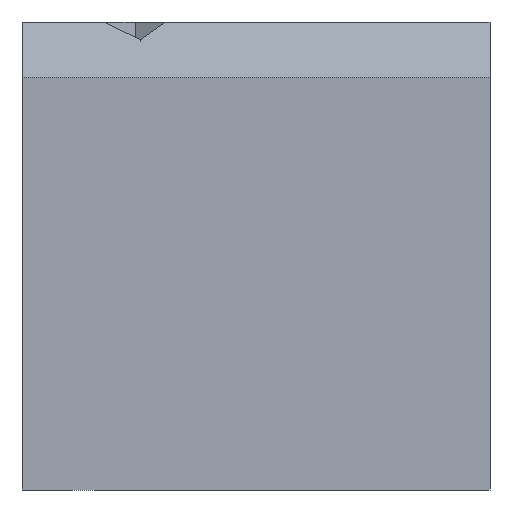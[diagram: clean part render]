
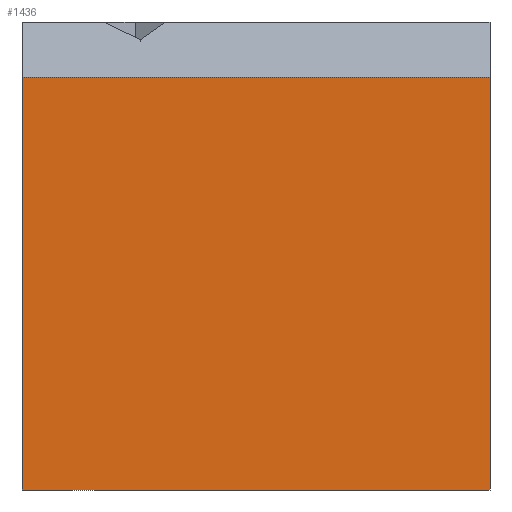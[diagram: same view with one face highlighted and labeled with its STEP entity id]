
A CAD part, front view. The second image highlights one B-rep face of the part: STEP entity #1436.
In plain terms, the highlighted planar face has unit normal (0, -1, 0).
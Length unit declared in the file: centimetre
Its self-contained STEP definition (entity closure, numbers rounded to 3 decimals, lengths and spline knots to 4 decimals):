
#10 = VERTEX_POINT ( 'NONE', #1035 ) ;
#129 = DIRECTION ( 'NONE',  ( 1., 0., 0. ) ) ;
#137 = PLANE ( 'NONE',  #776 ) ;
#155 = VECTOR ( 'NONE', #129, 100. ) ;
#174 = ORIENTED_EDGE ( 'NONE', *, *, #195, .T. ) ;
#195 = EDGE_CURVE ( 'NONE', #10, #760, #1315, .T. ) ;
#198 = CARTESIAN_POINT ( 'NONE',  ( 0., 0., 1000. ) ) ;
#228 = CARTESIAN_POINT ( 'NONE',  ( 0., 0., 0. ) ) ;
#299 = DIRECTION ( 'NONE',  ( 0., 0., -1. ) ) ;
#300 = ORIENTED_EDGE ( 'NONE', *, *, #1279, .T. ) ;
#330 = LINE ( 'NONE', #671, #1404 ) ;
#359 = VECTOR ( 'NONE', #299, 100. ) ;
#370 = DIRECTION ( 'NONE',  ( 0., 0., -1. ) ) ;
#398 = EDGE_CURVE ( 'NONE', #672, #10, #955, .T. ) ;
#568 = ORIENTED_EDGE ( 'NONE', *, *, #761, .F. ) ;
#571 = DIRECTION ( 'NONE',  ( 0., 1., 0. ) ) ;
#587 = CARTESIAN_POINT ( 'NONE',  ( 0., 0., 1000. ) ) ;
#671 = CARTESIAN_POINT ( 'NONE',  ( 0., 0., 881.4241 ) ) ;
#672 = VERTEX_POINT ( 'NONE', #765 ) ;
#760 = VERTEX_POINT ( 'NONE', #900 ) ;
#761 = EDGE_CURVE ( 'NONE', #1307, #760, #1232, .T. ) ;
#765 = CARTESIAN_POINT ( 'NONE',  ( 0., 0., 881.4241 ) ) ;
#776 = AXIS2_PLACEMENT_3D ( 'NONE', #587, #571, #1382 ) ;
#782 = DIRECTION ( 'NONE',  ( -1., 0., 0. ) ) ;
#900 = CARTESIAN_POINT ( 'NONE',  ( 1000., 0., 0. ) ) ;
#907 = FACE_OUTER_BOUND ( 'NONE', #1007, .T. ) ;
#955 = LINE ( 'NONE', #198, #359 ) ;
#1003 = CARTESIAN_POINT ( 'NONE',  ( 1000., 0., 881.4241 ) ) ;
#1007 = EDGE_LOOP ( 'NONE', ( #568, #300, #1304, #174 ) ) ;
#1035 = CARTESIAN_POINT ( 'NONE',  ( 0., 0., 0. ) ) ;
#1232 = LINE ( 'NONE', #1341, #1379 ) ;
#1279 = EDGE_CURVE ( 'NONE', #1307, #672, #330, .T. ) ;
#1304 = ORIENTED_EDGE ( 'NONE', *, *, #398, .T. ) ;
#1307 = VERTEX_POINT ( 'NONE', #1003 ) ;
#1315 = LINE ( 'NONE', #228, #155 ) ;
#1341 = CARTESIAN_POINT ( 'NONE',  ( 1000., 0., 1000. ) ) ;
#1379 = VECTOR ( 'NONE', #370, 100. ) ;
#1382 = DIRECTION ( 'NONE',  ( 0., 0., 1. ) ) ;
#1404 = VECTOR ( 'NONE', #782, 100. ) ;
#1436 = ADVANCED_FACE ( 'NONE', ( #907 ), #137, .F. ) ;
